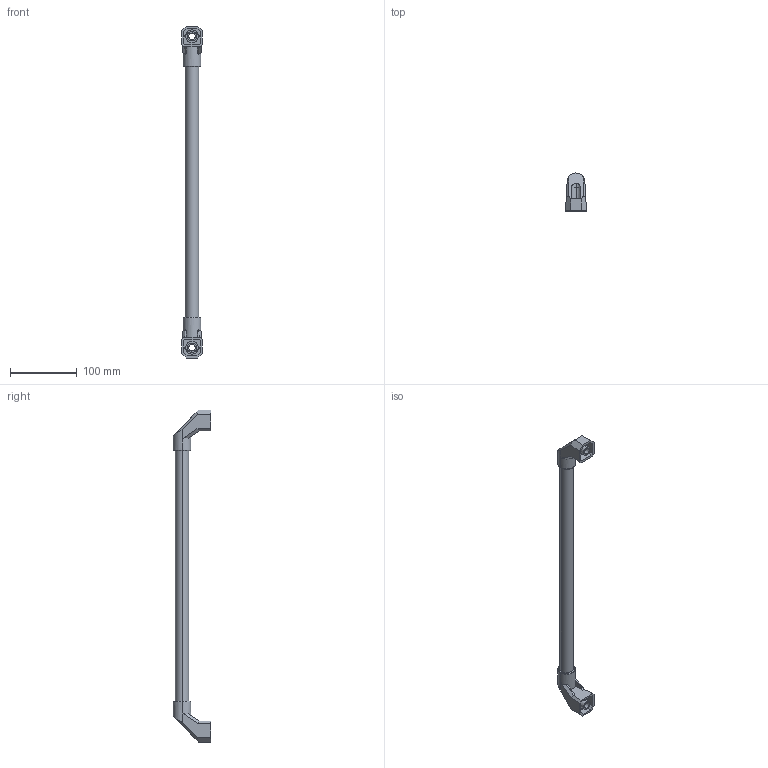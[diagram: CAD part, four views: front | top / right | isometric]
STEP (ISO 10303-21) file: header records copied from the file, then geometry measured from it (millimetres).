
FILE_DESCRIPTION (( 'STEP AP203' ), '1' );
FILE_NAME ('R5RMH60 (F465mm).STEP', '2020-06-16T08:50:29', ( '' ), ( '' ), 'SwSTEP 2.0', 'SolidWorks 2017', '' );
FILE_SCHEMA (( 'CONFIG_CONTROL_DESIGN' ));
Length unit declared in the file: millimetre
Products named in the file (3): R5RMH60 (F465mm); 砑僔蠂獥1; 櫻蠉錪1
Assembly tree (3 placements, depth 2):
  R5RMH60 (F465mm)
    砑僔蠂獥1  x2
    櫻蠉錪1
Bounding box: 31.3 x 56 x 495.8 mm (x, y, z)
Volume: 88202.1 mm3; surface area: 74999.9 mm2
Topology: 3 solids, 3 shells, 154 faces, 404 edges, 264 vertices
Faces by surface type: plane 114, cylinder 36, bspline 4
Entity records: 2798 total; most frequent: CARTESIAN_POINT 529, ORIENTED_EDGE 416, DIRECTION 394, EDGE_CURVE 208, VECTOR 144, LINE 144, VERTEX_POINT 136, AXIS2_PLACEMENT_3D 125
